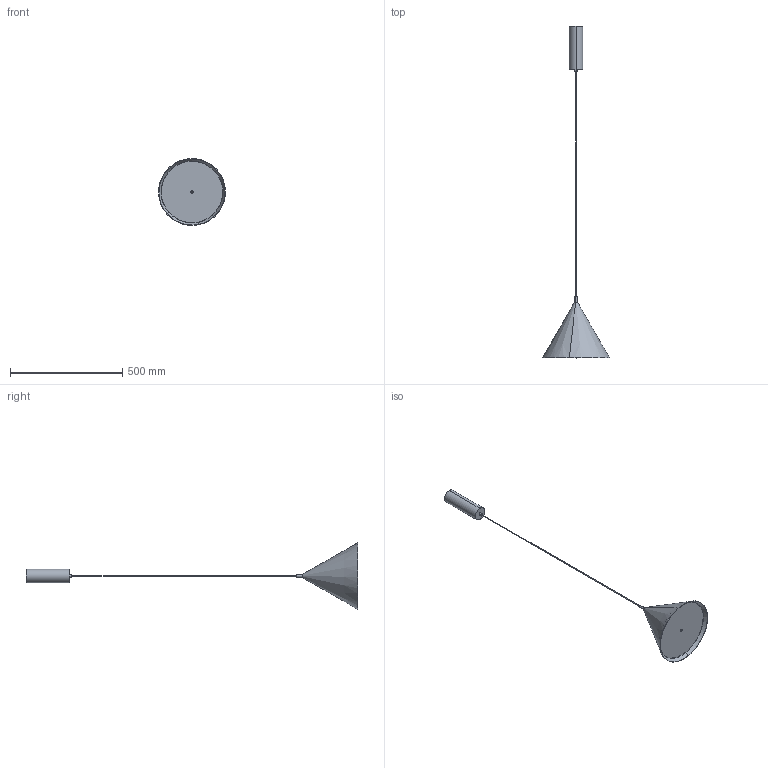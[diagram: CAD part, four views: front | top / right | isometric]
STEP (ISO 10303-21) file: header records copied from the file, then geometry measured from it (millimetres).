
FILE_DESCRIPTION (( 'STEP AP214' ), '1' );
FILE_NAME ('TRAG_C1340_30.STEP', '2024-12-19T11:49:17', ( '' ), ( '' ), 'SwSTEP 2.0', 'SolidWorks 2018', '' );
FILE_SCHEMA (( 'AUTOMOTIVE_DESIGN' ));
Length unit declared in the file: millimetre
Products named in the file (3): colgante con30 sin bola; TRAG_C1340_30; estructura
Assembly tree (2 placements, depth 2):
  TRAG_C1340_30
    estructura
    colgante con30 sin bola
Bounding box: 299.15 x 1480.95 x 299.15 mm (x, y, z)
Volume: 958456.8 mm3; surface area: 453904.7 mm2
Topology: 7 solids, 7 shells, 35 faces, 56 edges, 36 vertices
Faces by surface type: plane 15, cylinder 10, cone 6, torus 4
Entity records: 973 total; most frequent: DIRECTION 176, CARTESIAN_POINT 132, ORIENTED_EDGE 112, AXIS2_PLACEMENT_3D 80, EDGE_CURVE 56, CIRCLE 40, EDGE_LOOP 36, VERTEX_POINT 36
